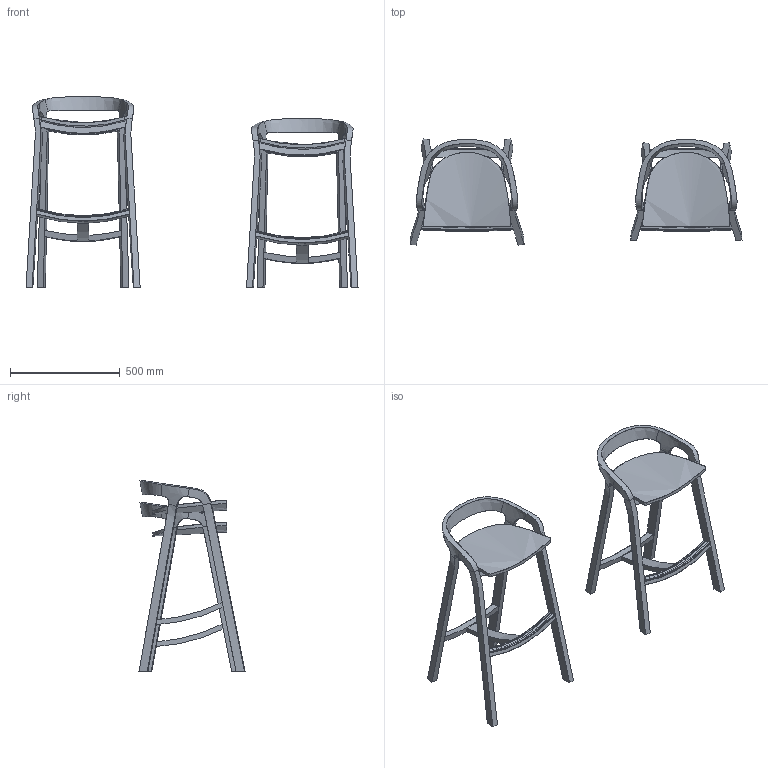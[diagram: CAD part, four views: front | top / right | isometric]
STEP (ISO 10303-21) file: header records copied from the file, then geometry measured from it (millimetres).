
FILE_DESCRIPTION(/* description */ (''),/* implementation_level */ '2;1');
FILE_NAME(/* name */ 'MC01_S~1',/* time_stamp */ '2021-04-08T18:04:25+02:00',/* author */ (''),/* organization */ (''),/* preprocessor_version */ 'ST-DEVELOPER v16.5',/* originating_system */ '',/* authorisation */ '');
FILE_SCHEMA (('AUTOMOTIVE_DESIGN'));
Length unit declared in the file: millimetre
Products named in the file (1): Document
Bounding box: 1514.71 x 483.89 x 870.29 mm (x, y, z)
Surface area: 2029546.6 mm2 (no closed solid volume)
Topology: 0 solids, 126 shells, 126 faces, 537 edges, 542 vertices
Faces by surface type: bspline 126
Entity records: 33313 total; most frequent: CARTESIAN_POINT 28159, B_SPLINE_CURVE_WITH_KNOTS 1055, ORIENTED_EDGE 532, PCURVE 532, DEFINITIONAL_REPRESENTATION 532, SURFACE_CURVE 532, EDGE_CURVE 532, VERTEX_POINT 532
